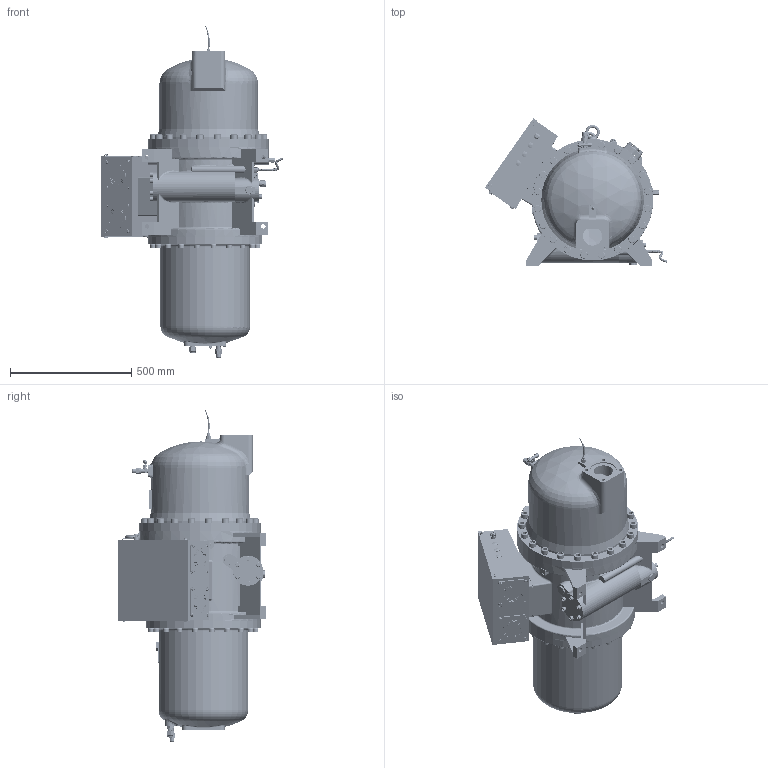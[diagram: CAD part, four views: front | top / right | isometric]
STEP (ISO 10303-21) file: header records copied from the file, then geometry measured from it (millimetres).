
FILE_DESCRIPTION (( 'STEP AP203' ), '1' );
FILE_NAME ('RC2-340BF outline.STEP', '2014-12-26T06:06:32', ( 'jameswang' ), ( '' ), 'SwSTEP 2.0', 'SolidWorks 2013', '' );
FILE_SCHEMA (( 'CONFIG_CONTROL_DESIGN' ));
Length unit declared in the file: centimetre
Products named in the file (1): RC2-340BF outline
Bounding box: 752 x 608.38 x 1370.94 mm (x, y, z)
Surface area: 4149194.3 mm2 (no closed solid volume)
Topology: 0 solids, 280 shells, 2707 faces, 10519 edges, 7936 vertices
Faces by surface type: plane 1294, cylinder 837, torus 313, cone 123, bspline 114, sphere 26
Entity records: 144288 total; most frequent: CARTESIAN_POINT 56769, DIRECTION 18839, ORIENTED_EDGE 15516, EDGE_CURVE 10488, VERTEX_POINT 7924, AXIS2_PLACEMENT_3D 7089, LINE 4661, VECTOR 4661
